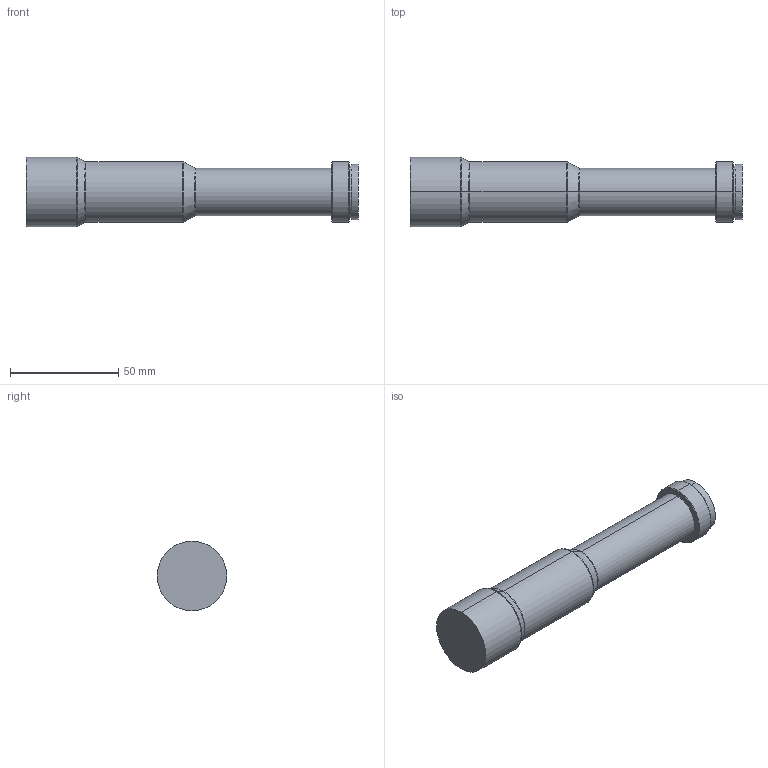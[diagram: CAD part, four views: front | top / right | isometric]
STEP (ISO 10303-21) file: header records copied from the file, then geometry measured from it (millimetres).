
FILE_DESCRIPTION (( 'STEP AP203' ), '1' );
FILE_NAME ('WWH50-108ATV3.STEP', '2021-11-05T02:48:56', ( '' ), ( '' ), 'SwSTEP 2.0', 'SolidWorks 2017', '' );
FILE_SCHEMA (( 'CONFIG_CONTROL_DESIGN' ));
Length unit declared in the file: millimetre
Products named in the file (1): WWH50-108ATV3
Bounding box: 153.1 x 32 x 32 mm (x, y, z)
Volume: 83033.2 mm3; surface area: 14312.4 mm2
Topology: 1 solids, 1 shells, 33 faces, 64 edges, 36 vertices
Faces by surface type: cylinder 12, torus 8, cone 8, plane 5
Entity records: 919 total; most frequent: DIRECTION 176, CARTESIAN_POINT 134, ORIENTED_EDGE 128, AXIS2_PLACEMENT_3D 78, EDGE_CURVE 64, CIRCLE 44, VERTEX_POINT 36, EDGE_LOOP 36
